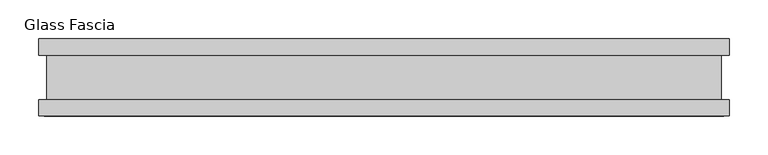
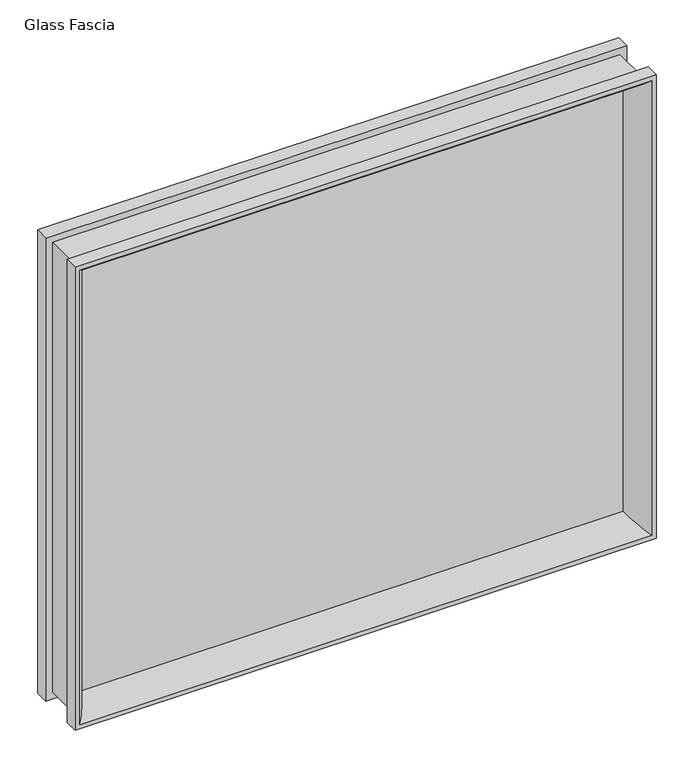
"""IFC4 building model written with IfcOpenShell, lengths in millimetres: proxy geometry, Panel-Fascia-Teknion-Altos-Glass : Glass Fascia."""

from ifc_helpers import new_model, si_unit, frame, origin, place, context, project, spatial, polyline, ellipse_curve, outline, extrude, source, transform, mapped, element, save
from ifc_brep_helpers import plane_surface, cylinder_surface, advanced_brep


def glass_fascia_c5390191(model_context):
    return source(origin(), model_context, "Body", "SolidModel", [
        advanced_brep(
        [(422.1144089, 5.0827449, 731.8403332), (440.0692593, 50.0558594, 749.7951836), (440.0692593, 50.0558594, 10.1728164), (422.1144089, 5.0827449, 28.1276668), (432.6046, -5.0827449, 742.3305243), (432.6046, 5.0827449, 742.3305243), (432.6046, 5.0827449, 17.6374757), (432.6046, -5.0827449, 17.6374757), (440.0692593, -50.0558594, 749.7951836), (422.1144089, -5.0827449, 731.8403332), (422.1144089, -5.0827449, 28.1276668), (440.0692593, -50.0558594, 10.1728164), (447.0670757, -28.8801202, 756.793), (447.0670757, -50.0558594, 756.793), (447.0670757, -50.0558594, 3.175), (447.0670757, -28.8801202, 3.175), (436.2420758, 28.2698798, 745.9680001), (436.2420758, -28.8801202, 745.9680001), (436.2420758, -28.8801202, 13.9999999), (436.2420758, 28.2698798, 13.9999999), (447.0670757, 50.0558594, 756.793), (447.0670757, 28.2698798, 756.793), (447.0670757, 28.2698798, 3.175), (447.0670757, 50.0558594, 3.175), (-440.0692593, 50.0558594, 10.1728164), (-422.1144089, 5.0827449, 28.1276668), (-432.6046, 5.0827449, 17.6374757), (-432.6046, -5.0827449, 17.6374757), (-422.1144089, -5.0827449, 28.1276668), (-440.0692593, -50.0558594, 10.1728164), (-447.0670757, -50.0558594, 3.175), (-447.0670757, -28.8801202, 3.175), (-436.2420758, -28.8801202, 13.9999999), (-436.2420758, 28.2698798, 13.9999999), (-447.0670757, 28.2698798, 3.175), (-447.0670757, 50.0558594, 3.175), (-440.0692593, 50.0558594, 749.7951836), (-422.1144089, 5.0827449, 731.8403332), (-432.6046, 5.0827449, 742.3305243), (-432.6046, -5.0827449, 742.3305243), (-422.1144089, -5.0827449, 731.8403332), (-440.0692593, -50.0558594, 749.7951836), (-447.0670757, -50.0558594, 756.793), (-447.0670757, -28.8801202, 756.793), (-436.2420758, -28.8801202, 745.9680001), (-436.2420758, 28.2698798, 745.9680001), (-447.0670757, 28.2698798, 756.793), (-447.0670757, 50.0558594, 756.793)],
        [
            (0, 1, ellipse_curve(frame((474.2006463, 10.3587469, 783.9265705), z_axis=(0.7071067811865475, 0.0, -0.7071067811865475), x_axis=(0.7071067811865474, 0.0, 0.7071067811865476)), 74.0379946, 52.352768)),
            (1, 2),
            (2, 3, ellipse_curve(frame((474.2006463, 10.3587469, -23.9585705), z_axis=(0.7071067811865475, 0.0, 0.7071067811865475), x_axis=(-0.7071067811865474, 0.0, 0.7071067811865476)), 74.0379946, 52.352768)),
            (3, 0),
            (4, 5),
            (5, 6),
            (6, 7),
            (7, 4),
            (8, 9, ellipse_curve(frame((474.2006463, -10.3587469, 783.9265705), z_axis=(0.7071067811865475, 0.0, -0.7071067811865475), x_axis=(0.7071067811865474, 0.0, 0.7071067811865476)), 74.0379946, 52.352768)),
            (9, 10),
            (10, 11, ellipse_curve(frame((474.2006463, -10.3587469, -23.9585705), z_axis=(0.7071067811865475, 0.0, 0.7071067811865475), x_axis=(-0.7071067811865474, 0.0, 0.7071067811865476)), 74.0379946, 52.352768)),
            (11, 8),
            (12, 13),
            (13, 14),
            (14, 15),
            (15, 12),
            (16, 17),
            (17, 18),
            (18, 19),
            (19, 16),
            (20, 21),
            (21, 22),
            (22, 23),
            (23, 20),
            (2, 24),
            (24, 25, ellipse_curve(frame((-474.2006463, 10.3587469, -23.9585705), z_axis=(0.7071067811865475, 0.0, -0.7071067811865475), x_axis=(0.7071067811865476, 0.0, 0.7071067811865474)), 74.0379946, 52.352768)),
            (25, 3),
            (6, 26),
            (26, 27),
            (27, 7),
            (10, 28),
            (28, 29, ellipse_curve(frame((-474.2006463, -10.3587469, -23.9585705), z_axis=(0.7071067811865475, 0.0, -0.7071067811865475), x_axis=(0.7071067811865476, 0.0, 0.7071067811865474)), 74.0379946, 52.352768)),
            (29, 11),
            (14, 30),
            (30, 31),
            (31, 15),
            (18, 32),
            (32, 33),
            (33, 19),
            (22, 34),
            (34, 35),
            (35, 23),
            (24, 36),
            (36, 37, ellipse_curve(frame((-474.2006463, 10.3587469, 783.9265705), z_axis=(-0.7071067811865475, 0.0, -0.7071067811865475), x_axis=(0.7071067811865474, 0.0, -0.7071067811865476)), 74.0379946, 52.352768)),
            (37, 25),
            (26, 38),
            (38, 39),
            (39, 27),
            (28, 40),
            (40, 41, ellipse_curve(frame((-474.2006463, -10.3587469, 783.9265705), z_axis=(-0.7071067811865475, 0.0, -0.7071067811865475), x_axis=(0.7071067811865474, 0.0, -0.7071067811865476)), 74.0379946, 52.352768)),
            (41, 29),
            (30, 42),
            (42, 43),
            (43, 31),
            (32, 44),
            (44, 45),
            (45, 33),
            (34, 46),
            (46, 47),
            (47, 35),
            (47, 20),
            (1, 36),
            (0, 37),
            (5, 38),
            (4, 39),
            (9, 40),
            (8, 41),
            (13, 42),
            (12, 43),
            (17, 44),
            (16, 45),
            (21, 46),
        ],
        [
            cylinder_surface(frame((474.2006463, 10.3587469, 756.793), z_axis=(0.0, 0.0, 1.0), x_axis=(1.0, 0.0, 0.0)), 52.352768),
            plane_surface(frame((432.6046, 5.0827449, 742.3305243), z_axis=(-1.0, 0.0, 0.0), x_axis=(0.0, 0.0, -1.0))),
            cylinder_surface(frame((474.2006463, -10.3587469, 756.793), z_axis=(0.0, 0.0, 1.0), x_axis=(1.0, 0.0, 0.0)), 52.352768),
            plane_surface(frame((447.0670757, -50.0558594, 756.793), z_axis=(1.0, 0.0, 0.0), x_axis=(0.0, 0.0, -1.0))),
            plane_surface(frame((436.2420758, -28.8801202, 745.9680001), z_axis=(1.0, 0.0, 0.0), x_axis=(0.0, 0.0, -1.0))),
            plane_surface(frame((447.0670757, 28.2698798, 756.793), z_axis=(1.0, 0.0, 0.0), x_axis=(0.0, 0.0, -1.0))),
            cylinder_surface(frame((447.0670757, 10.3587469, -23.9585705), z_axis=(1.0, 0.0, 0.0), x_axis=(0.0, 0.0, -1.0)), 52.352768),
            plane_surface(frame((432.6046, 5.0827449, 17.6374757), z_axis=(0.0, 0.0, 1.0), x_axis=(-1.0, 0.0, 0.0))),
            cylinder_surface(frame((447.0670757, -10.3587469, -23.9585705), z_axis=(1.0, 0.0, 0.0), x_axis=(0.0, 0.0, -1.0)), 52.352768),
            plane_surface(frame((447.0670757, -50.0558594, 3.175), z_axis=(0.0, 0.0, -1.0), x_axis=(-1.0, 0.0, 0.0))),
            plane_surface(frame((436.2420758, -28.8801202, 13.9999999), z_axis=(0.0, 0.0, -1.0), x_axis=(-1.0, 0.0, 0.0))),
            plane_surface(frame((447.0670757, 28.2698798, 3.175), z_axis=(0.0, 0.0, -1.0), x_axis=(-1.0, 0.0, 0.0))),
            cylinder_surface(frame((-474.2006463, 10.3587469, 3.175), z_axis=(0.0, 0.0, -1.0), x_axis=(-1.0, 0.0, 0.0)), 52.352768),
            plane_surface(frame((-432.6046, 5.0827449, 17.6374757), z_axis=(1.0, 0.0, 0.0), x_axis=(0.0, 0.0, 1.0))),
            cylinder_surface(frame((-474.2006463, -10.3587469, 3.175), z_axis=(0.0, 0.0, -1.0), x_axis=(-1.0, 0.0, 0.0)), 52.352768),
            plane_surface(frame((-447.0670757, -50.0558594, 3.175), z_axis=(-1.0, 0.0, 0.0), x_axis=(0.0, 0.0, 1.0))),
            plane_surface(frame((-436.2420758, -28.8801202, 13.9999999), z_axis=(-1.0, 0.0, 0.0), x_axis=(0.0, 0.0, 1.0))),
            plane_surface(frame((-447.0670757, 28.2698798, 3.175), z_axis=(-1.0, 0.0, 0.0), x_axis=(0.0, 0.0, 1.0))),
            plane_surface(frame((-447.0670757, 50.0558594, 756.793), z_axis=(0.0, 1.0, 0.0), x_axis=(1.0, 0.0, 0.0))),
            cylinder_surface(frame((-447.0670757, 10.3587469, 783.9265705), z_axis=(-1.0, 0.0, 0.0), x_axis=(0.0, 0.0, 1.0)), 52.352768),
            plane_surface(frame((-422.1144089, 5.0827449, 731.8403332), z_axis=(0.0, -1.0, 0.0), x_axis=(1.0, 0.0, 0.0))),
            plane_surface(frame((-432.6046, 5.0827449, 742.3305243), z_axis=(0.0, 0.0, -1.0), x_axis=(1.0, 0.0, 0.0))),
            plane_surface(frame((-432.6046, -5.0827449, 742.3305243), z_axis=(0.0, 1.0, 0.0), x_axis=(1.0, 0.0, 0.0))),
            cylinder_surface(frame((-447.0670757, -10.3587469, 783.9265705), z_axis=(-1.0, 0.0, 0.0), x_axis=(0.0, 0.0, 1.0)), 52.352768),
            plane_surface(frame((-440.0692593, -50.0558594, 749.7951836), z_axis=(0.0, -1.0, 0.0), x_axis=(1.0, 0.0, 0.0))),
            plane_surface(frame((-447.0670757, -50.0558594, 756.793), z_axis=(0.0, 0.0, 1.0), x_axis=(1.0, 0.0, 0.0))),
            plane_surface(frame((-447.0670757, -28.8801202, 756.793), z_axis=(0.0, 1.0, 0.0), x_axis=(1.0, 0.0, 0.0))),
            plane_surface(frame((-436.2420758, -28.8801202, 745.9680001), z_axis=(0.0, 0.0, 1.0), x_axis=(1.0, 0.0, 0.0))),
            plane_surface(frame((-436.2420758, 28.2698798, 745.9680001), z_axis=(0.0, -1.0, 0.0), x_axis=(1.0, 0.0, 0.0))),
            plane_surface(frame((-447.0670757, 28.2698798, 756.793), z_axis=(0.0, 0.0, 1.0), x_axis=(1.0, 0.0, 0.0))),
        ],
        [
            (0, [[1, 2, 3, 4]]),
            (1, [[5, 6, 7, 8]]),
            (2, [[9, 10, 11, 12]]),
            (3, [[13, 14, 15, 16]]),
            (4, [[17, 18, 19, 20]]),
            (5, [[21, 22, 23, 24]]),
            (6, [[-3, 25, 26, 27]]),
            (7, [[-7, 28, 29, 30]]),
            (8, [[-11, 31, 32, 33]]),
            (9, [[-15, 34, 35, 36]]),
            (10, [[-19, 37, 38, 39]]),
            (11, [[-23, 40, 41, 42]]),
            (12, [[-26, 43, 44, 45]]),
            (13, [[-29, 46, 47, 48]]),
            (14, [[-32, 49, 50, 51]]),
            (15, [[-35, 52, 53, 54]]),
            (16, [[-38, 55, 56, 57]]),
            (17, [[-41, 58, 59, 60]]),
            (18, [[-42, -60, 61, -24], [62, -43, -25, -2]]),
            (19, [[-44, -62, -1, 63]]),
            (20, [[64, -46, -28, -6], [-27, -45, -63, -4]]),
            (21, [[-47, -64, -5, 65]]),
            (22, [[-30, -48, -65, -8], [66, -49, -31, -10]]),
            (23, [[-50, -66, -9, 67]]),
            (24, [[68, -52, -34, -14], [-33, -51, -67, -12]]),
            (25, [[-53, -68, -13, 69]]),
            (26, [[-36, -54, -69, -16], [70, -55, -37, -18]]),
            (27, [[-56, -70, -17, 71]]),
            (28, [[72, -58, -40, -22], [-39, -57, -71, -20]]),
            (29, [[-59, -72, -21, -61]]),
        ],
    ),
        extrude(outline(polyline([(432.6046, 2.9765625), (432.6046, -2.9765625), (-432.6046, -2.9765625), (-432.6046, 2.9765625), (432.6046, 2.9765625)])), frame((0.0, 0.0, 17.6374757), z_axis=(0.0, 0.0, 1.0), x_axis=(1.0, 0.0, 0.0)), (0.0, 0.0, 1.0), 724.6930485),
    ])


if __name__ == "__main__":
    model = new_model("IFC4")
    model_context = context("Model", 3, world=origin())
    ifc_project = project(units=[si_unit("LENGTHUNIT", "METRE", prefix="MILLI")], contexts=[model_context])
    site = spatial("IfcSite", under=ifc_project)
    building = spatial("IfcBuilding", under=site)
    placement = place(None, origin())
    glass_fascia_shape = glass_fascia_c5390191(model_context)
    element("IfcBuildingElementProxy", 1, Name="Panel-Fascia-Teknion-Altos-Glass : Glass Fascia", ObjectType="Panel-Fascia-Teknion-Altos-Glass : Glass Fascia", at=placement, inside=building, context=model_context, shape_type="MappedRepresentation", body=[
        mapped(glass_fascia_shape, transform((0.0, 0.0, 0.0), x_axis=(1.0, 0.0, 0.0), y_axis=(0.0, 1.0, 0.0), z_axis=(0.0, 0.0, 1.0))),
    ])
    save(model, "model.ifc")
